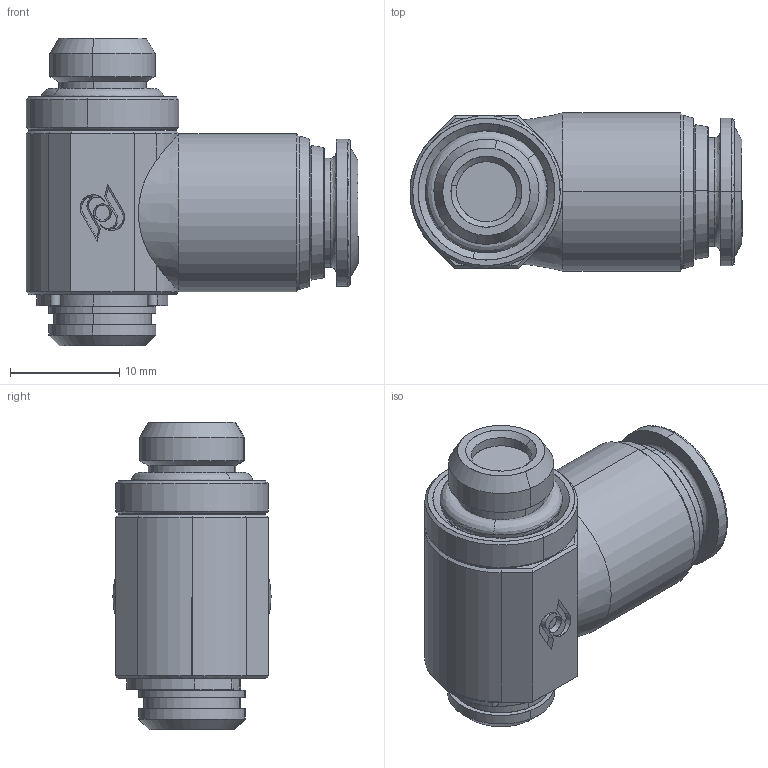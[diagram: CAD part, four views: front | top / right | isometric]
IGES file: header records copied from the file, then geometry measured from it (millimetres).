
Start section: SolidWorks IGES file using analytic representation for surfaces
Global section: file name: K:\Disegni Esecutivi\Serie 57000\ASSIEMI_57000\57550\ASSIEMI_PIENI_57550\5755000005.IGS; native system: SolidWorks 2008; preprocessor: SolidWorks 2008; author: cad02; date: 080218.172850; units: millimetre
Bounding box: 30.4 x 14.5 x 28.2 mm (x, y, z)
Surface area: 2978 mm2 (no closed solid volume)
Topology: 0 solids, 0 shells, 182 faces, 2332 edges, 2332 vertices
Faces by surface type: revolution 96, bspline 86
